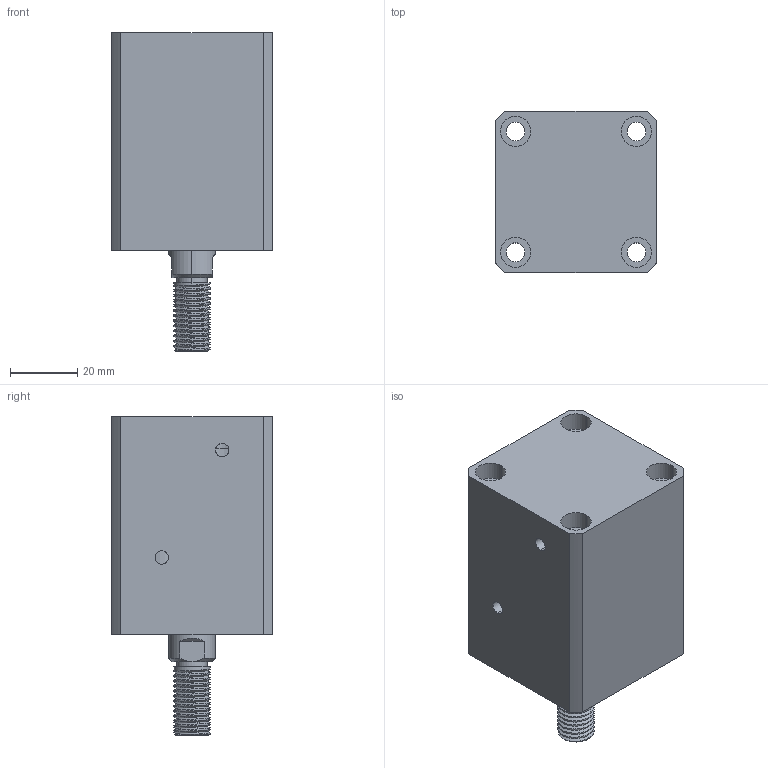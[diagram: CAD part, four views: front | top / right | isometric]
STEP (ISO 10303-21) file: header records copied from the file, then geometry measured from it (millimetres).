
FILE_DESCRIPTION (( 'STEP AP214' ), '1' );
FILE_NAME ('chtb-sdma25x20w_asm.STEP', '2018-05-22T07:30:07', ( 'Windows' ), ( 'Microsoft' ), 'SwSTEP 2.0', 'SolidWorks 2015', '' );
FILE_SCHEMA (( 'AUTOMOTIVE_DESIGN' ));
Length unit declared in the file: millimetre
Products named in the file (4): CHTB-SDMA25X20WHSG; CHTB-SDMA25X20NBT; CHTB-25QG; chtb-sdma25x20w_asm
Assembly tree (3 placements, depth 2):
  chtb-sdma25x20w_asm
    CHTB-25QG
    CHTB-SDMA25X20NBT
    CHTB-SDMA25X20WHSG
Bounding box: 48 x 48 x 95 mm (x, y, z)
Volume: 135142.3 mm3; surface area: 38143.7 mm2
Topology: 3 solids, 3 shells, 177 faces, 479 edges, 325 vertices
Faces by surface type: cylinder 118, plane 37, bspline 12, cone 10
Entity records: 10552 total; most frequent: CARTESIAN_POINT 6211, ORIENTED_EDGE 950, DIRECTION 770, EDGE_CURVE 475, VERTEX_POINT 325, AXIS2_PLACEMENT_3D 312, EDGE_LOOP 216, FACE_OUTER_BOUND 177
